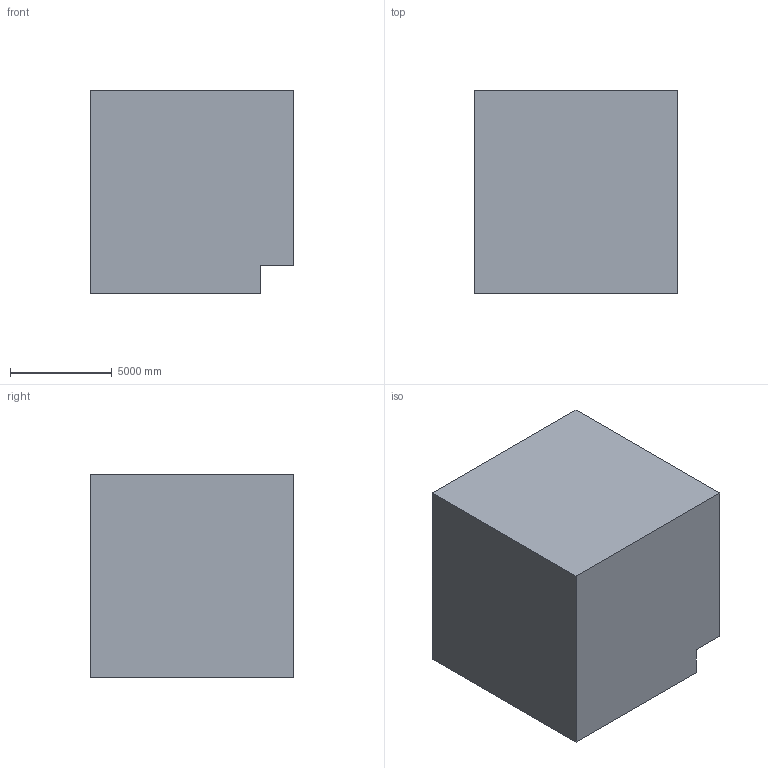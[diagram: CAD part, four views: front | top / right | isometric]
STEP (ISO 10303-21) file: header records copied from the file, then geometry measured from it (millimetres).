
FILE_DESCRIPTION (( 'STEP AP203' ), '1' );
FILE_NAME ('16.STEP', '2022-09-01T11:36:54', ( 'user' ), ( '' ), 'SwSTEP 2.0', 'SolidWorks 2021', '' );
FILE_SCHEMA (( 'CONFIG_CONTROL_DESIGN' ));
Length unit declared in the file: centimetre
Products named in the file (1): 16
Bounding box: 10000 x 10000 x 10000 mm (x, y, z)
Volume: 903633632151.6 mm3; surface area: 632656829.4 mm2
Topology: 1 solids, 1 shells, 13 faces, 33 edges, 22 vertices
Faces by surface type: plane 11, cylinder 2
Entity records: 468 total; most frequent: CARTESIAN_POINT 69, ORIENTED_EDGE 66, DIRECTION 65, EDGE_CURVE 33, LINE 29, VECTOR 29, VERTEX_POINT 22, AXIS2_PLACEMENT_3D 18
